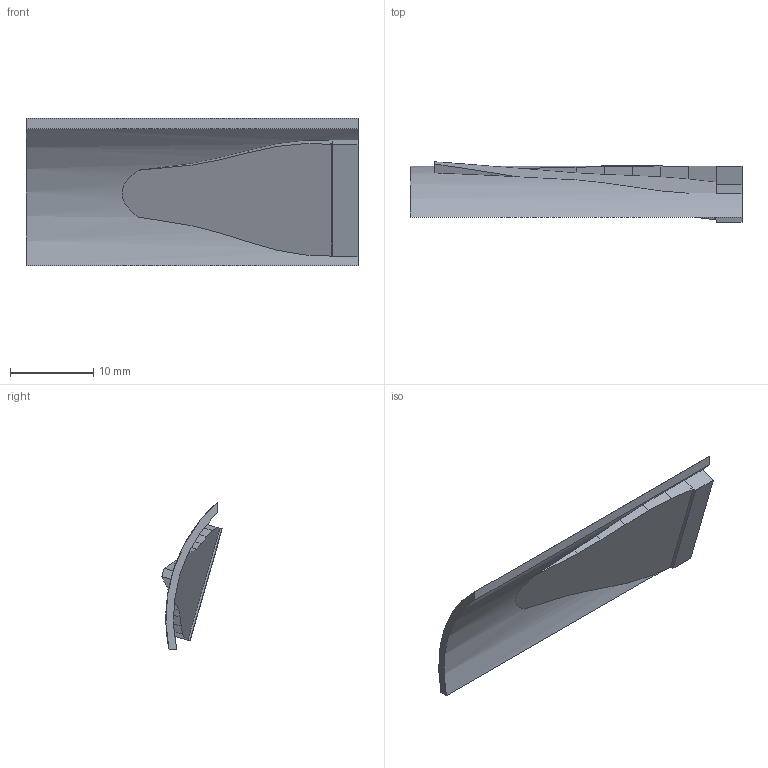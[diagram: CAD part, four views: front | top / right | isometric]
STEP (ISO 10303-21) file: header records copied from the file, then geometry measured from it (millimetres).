
FILE_DESCRIPTION(('SkyG Speed 90B - revision C6B-1 - 2026-10-07','DI-inlet-right'),'2;1');
FILE_NAME('DI-inlet-right_C6B-1','2026-10-07T21:43:16',('Author'),( 'Open CASCADE'),'Open CASCADE STEP processor 7.9','Open CASCADE 7.9' ,'Unknown');
FILE_SCHEMA(('AUTOMOTIVE_DESIGN { 1 0 10303 214 1 1 1 1 }'));
Length unit declared in the file: millimetre
Products named in the file (1): DI-inlet-right C6B-1
Bounding box: 39.94 x 7.28 x 17.75 mm (x, y, z)
Volume: 765.2 mm3; surface area: 1753.9 mm2
Topology: 1 solids, 1 shells, 53 faces, 151 edges, 100 vertices
Faces by surface type: plane 36, bspline 15, cylinder 2
Entity records: 4385 total; most frequent: CARTESIAN_POINT 1803, DIRECTION 323, ORIENTED_EDGE 302, PCURVE 302, DEFINITIONAL_REPRESENTATION 302, B_SPLINE_CURVE_WITH_KNOTS 218, LINE 213, VECTOR 213
